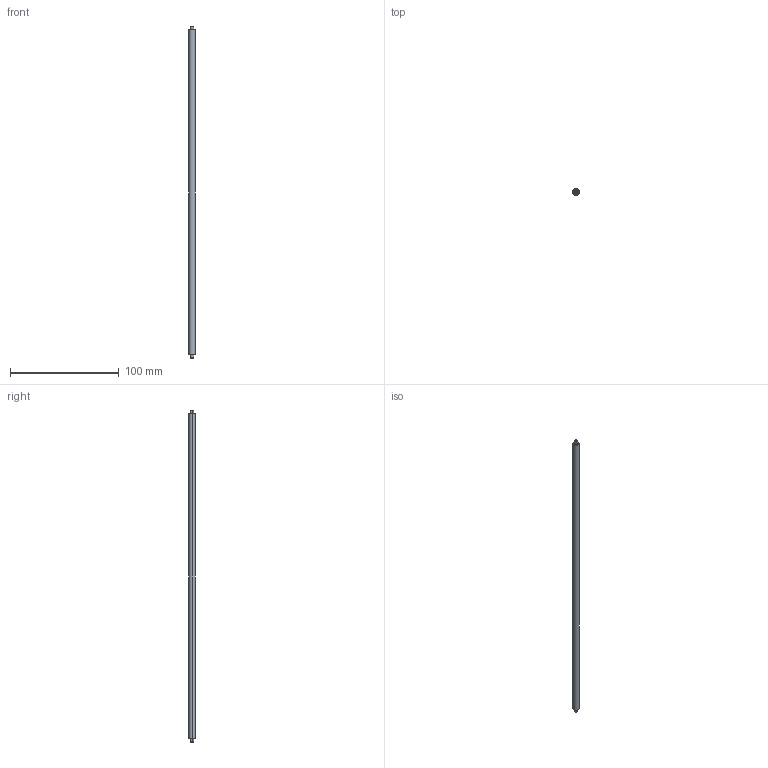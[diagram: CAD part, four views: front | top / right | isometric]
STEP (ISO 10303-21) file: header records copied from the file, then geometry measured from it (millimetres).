
FILE_DESCRIPTION (( 'STEP AP203' ), '1' );
FILE_NAME ('CSSP-300.STEP', '2023-11-24T04:56:09', ( '' ), ( '' ), 'SwSTEP 2.0', 'SolidWorks 2021', '' );
FILE_SCHEMA (( 'CONFIG_CONTROL_DESIGN' ));
Length unit declared in the file: millimetre
Products named in the file (1): CSSP-300
Bounding box: 6 x 6 x 306 mm (x, y, z)
Surface area: 5850.8 mm2 (no closed solid volume)
Topology: 0 solids, 3 shells, 30 faces, 74 edges, 48 vertices
Faces by surface type: plane 16, cone 8, cylinder 6
Entity records: 953 total; most frequent: DIRECTION 160, CARTESIAN_POINT 153, ORIENTED_EDGE 128, EDGE_CURVE 74, AXIS2_PLACEMENT_3D 55, VECTOR 50, LINE 50, VERTEX_POINT 48
